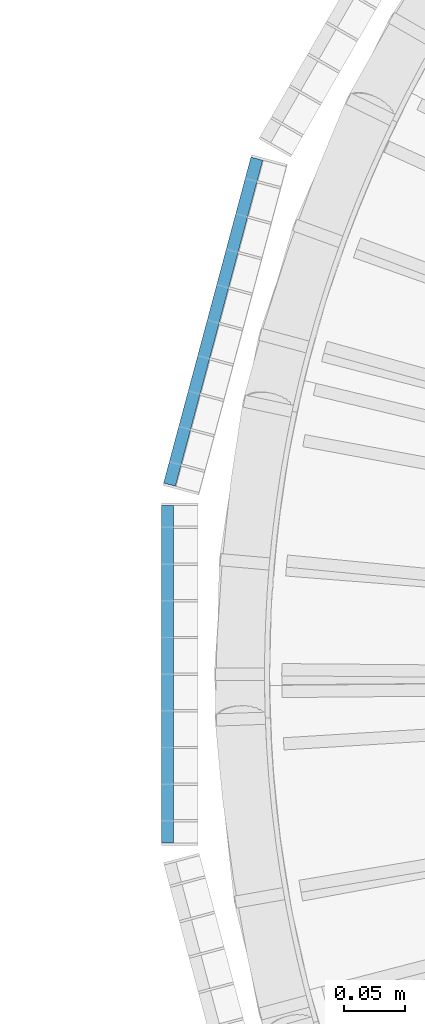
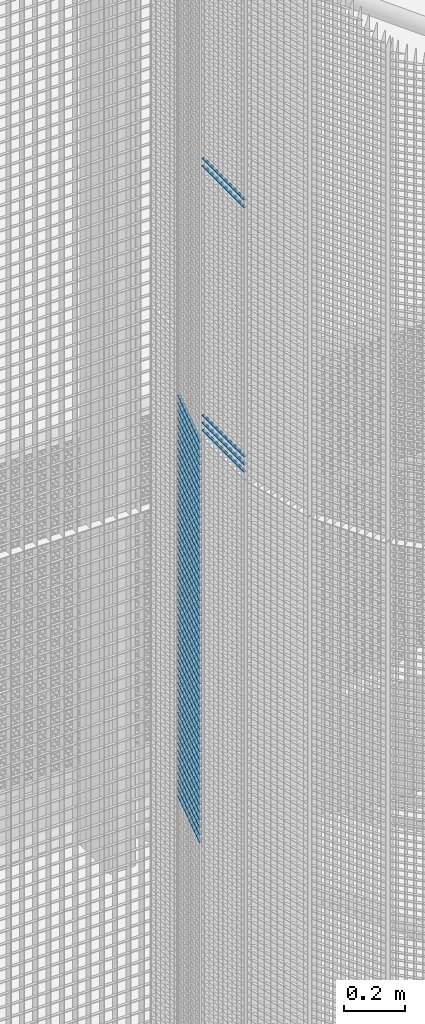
# One storey, part 196 of 1183: 59 beams, 2 elements without a shape of their own.
"""IFC2X3 building model written with IfcOpenShell, lengths in millimetres."""

import ifcopenshell
import ifcopenshell.guid

model = None  # the IFC model being written
_history = None  # IfcOwnerHistory: only IFC2X3 demands one
_inside = {}  # id of a spatial element -> (the spatial element, [elements in it])
_under = {}  # id of a project, library or spatial element -> (it, [spatial elements below it])
_declared = {}  # id of a project -> (the project, [libraries it declares])
_typed = {}  # id of a type object -> (the type object, [elements of that type])
_made_of = {}  # id of a material, layer set ... -> (it, [elements and type objects made of it])


def new_model(schema):
    """Start an empty IFC model of exactly this schema.

    Asked for "IFC4X3", IfcOpenShell would pick the latest addendum, in which some entities
    have other attributes; the version numbers below select the first issue.
    IFC2X3 requires an IfcOwnerHistory on every rooted entity: one is made here for all.
    """
    global model, _history
    if schema == "IFC4X3":
        model = ifcopenshell.file(schema_version=(4, 3, 0, 0))
    else:
        model = ifcopenshell.file(schema=schema)
    _inside.clear()
    _under.clear()
    _declared.clear()
    _typed.clear()
    _made_of.clear()
    _history = None
    if model.schema == "IFC2X3":
        org = make("IfcOrganization", Name="unknown")
        user = make(
            "IfcPersonAndOrganization",
            ThePerson=make("IfcPerson", FamilyName="unknown"),
            TheOrganization=org,
        )
        app = make(
            "IfcApplication",
            ApplicationDeveloper=org,
            Version="unknown",
            ApplicationFullName="unknown",
            ApplicationIdentifier="unknown",
        )
        _history = make(
            "IfcOwnerHistory",
            OwningUser=user,
            OwningApplication=app,
            ChangeAction="ADDED",
            CreationDate=0,
        )
    return model


def make(cls, **values):
    """One entity of the class cls with the attributes given. An attribute that is None is left unset."""
    return model.create_entity(
        cls, **{name: value for name, value in values.items() if value is not None}
    )


def rooted(cls, **values):
    """An entity with a GlobalId (a new one), such as an element, a storey or a relation."""
    return make(cls, GlobalId=ifcopenshell.guid.new(), OwnerHistory=_history, **values)


def si_unit(unit_type, name, prefix=None):
    """IfcSIUnit, for example si_unit("LENGTHUNIT", "METRE", prefix="MILLI")."""
    return make("IfcSIUnit", UnitType=unit_type, Prefix=prefix, Name=name)


def assignment(units):
    """IfcUnitAssignment: the units of a project."""
    return None if units is None else make("IfcUnitAssignment", Units=units)


def point(xyz):
    """IfcCartesianPoint."""
    return None if xyz is None else make("IfcCartesianPoint", Coordinates=xyz)


def direction(xyz):
    """IfcDirection."""
    return None if xyz is None else make("IfcDirection", DirectionRatios=xyz)


def frame(location, z_axis=None, x_axis=None):
    """IfcAxis2Placement3D, a coordinate frame: its origin and axes. An axis left out is left unset."""
    return make(
        "IfcAxis2Placement3D",
        Location=point(location),
        Axis=direction(z_axis),
        RefDirection=direction(x_axis),
    )


def frame_2d(location, x_axis=None):
    """IfcAxis2Placement2D, a coordinate frame in the plane: its origin and x axis."""
    return make(
        "IfcAxis2Placement2D", Location=point(location), RefDirection=direction(x_axis)
    )


def origin_with_axes():
    """The frame at (0, 0, 0) with the z axis (0, 0, 1) and the x axis (1, 0, 0) written out."""
    return frame((0.0, 0.0, 0.0), z_axis=(0.0, 0.0, 1.0), x_axis=(1.0, 0.0, 0.0))


def origin_2d_with_axis():
    """The frame at (0, 0) in the plane with the x axis (1, 0) written out."""
    return frame_2d((0.0, 0.0), x_axis=(1.0, 0.0))


def place(relative_to, where):
    """IfcLocalPlacement: puts the frame where relative to a parent placement (None: the world)."""
    return make(
        "IfcLocalPlacement", PlacementRelTo=relative_to, RelativePlacement=where
    )


def context(
    kind, dimensions, precision=None, world=None, true_north=None, identifier=None
):
    """IfcGeometricRepresentationContext, for example the 3D "Model" context."""
    return make(
        "IfcGeometricRepresentationContext",
        ContextIdentifier=identifier,
        ContextType=kind,
        CoordinateSpaceDimension=dimensions,
        Precision=precision,
        WorldCoordinateSystem=world,
        TrueNorth=true_north,
    )


def subcontext(parent, identifier, kind, view, scale=None):
    """IfcGeometricRepresentationSubContext, for example "Body" below "Model"."""
    return make(
        "IfcGeometricRepresentationSubContext",
        ContextIdentifier=identifier,
        ContextType=kind,
        ParentContext=parent,
        TargetScale=scale,
        TargetView=view,
    )


def project(units=None, contexts=None):
    """IfcProject with its units and contexts."""
    return rooted(
        "IfcProject",
        Name="project",
        RepresentationContexts=contexts,
        UnitsInContext=assignment(units),
    )


def spatial(cls, under=None, at=None, **own):
    """A site, building, storey or space (cls), placed at a placement, below another one or the project."""
    s = rooted(cls, ObjectPlacement=at, **own)
    if under is not None:
        _under.setdefault(under.id(), (under, []))[1].append(s)
    return s


def profile(cls, at=None, kind="AREA", **sizes):
    """A parametric profile (cls). Its sizes go by their IFC names, for example OverallWidth=200.0."""
    return make(cls, ProfileType=kind, Position=at, **sizes)


def rectangle(**sizes):
    """IfcRectangleProfileDef."""
    return profile("IfcRectangleProfileDef", **sizes)


def extrude(swept, where, along, depth):
    """IfcExtrudedAreaSolid: the profile swept, set in the frame where, extruded along a direction by depth."""
    return make(
        "IfcExtrudedAreaSolid",
        SweptArea=swept,
        Position=where,
        ExtrudedDirection=direction(along),
        Depth=depth,
    )


def shape(context_of_items, identifier, shape_type, items):
    """IfcShapeRepresentation: the items that make up one representation, for example the "Body"."""
    return make(
        "IfcShapeRepresentation",
        ContextOfItems=context_of_items,
        RepresentationIdentifier=identifier,
        RepresentationType=shape_type,
        Items=items,
    )


def material(Name=None, Category=None):
    """IfcMaterial."""
    return make("IfcMaterial", Name=Name, Category=Category)


def made_of(thing, what):
    """Note that an element or type object is made of a material, layer set ...; save() writes the relation."""
    if what is not None:
        _made_of.setdefault(what.id(), (what, []))[1].append(thing)
    return thing


def type_object(cls, material=None, **own):
    """A type object (cls), such as IfcWallType, which elements share."""
    return made_of(rooted(cls, **own), material)


def element(
    cls,
    number,
    at=None,
    inside=None,
    cuts=None,
    type_object=None,
    material=None,
    context=None,
    identifier="Body",
    shape_type=None,
    held_by="IfcProductDefinitionShape",
    body=None,
    shapes=None,
    **own,
):
    """One element of the class cls, such as IfcWall. Its Tag is "e" and its number.

    at: its placement. inside: the storey or other place that contains it. cuts: it is an
    opening in that element (IfcRelVoidsElement). A single representation is given by context,
    identifier, shape_type and body (its items); several are given by shapes. held_by: the class
    of the entity that holds the representations. save() writes the other relations.
    """
    e = rooted(cls, Tag="e%d" % number, ObjectPlacement=at, **own)
    if body is not None:
        shapes = [shape(context, identifier, shape_type, body)]
    if shapes is not None:
        e.Representation = make(held_by, Representations=shapes)
    if inside is not None:
        _inside.setdefault(inside.id(), (inside, []))[1].append(e)
    if cuts is not None:
        rooted(
            "IfcRelVoidsElement", RelatingBuildingElement=cuts, RelatedOpeningElement=e
        )
    if type_object is not None:
        _typed.setdefault(type_object.id(), (type_object, []))[1].append(e)
    return made_of(e, material)


def aggregate(whole, parts):
    """IfcRelAggregates: a whole, such as a stair, and the parts it consists of."""
    return rooted("IfcRelAggregates", RelatingObject=whole, RelatedObjects=parts)


def save(model, path):
    """Write the relations noted so far, then the file.

    IfcRelAggregates (storeys below a building ...), IfcRelContainedInSpatialStructure (elements
    in a storey), IfcRelDefinesByType, IfcRelAssociatesMaterial and IfcRelDeclares: one each for
    every whole, place, type object, material and project.
    """
    for whole, parts in _under.values():
        aggregate(whole, parts)
    for where, things in _inside.values():
        rooted(
            "IfcRelContainedInSpatialStructure",
            RelatedElements=things,
            RelatingStructure=where,
        )
    for kind, things in _typed.values():
        rooted("IfcRelDefinesByType", RelatedObjects=things, RelatingType=kind)
    for what, things in _made_of.values():
        rooted("IfcRelAssociatesMaterial", RelatedObjects=things, RelatingMaterial=what)
    for by, libraries in _declared.values():
        rooted("IfcRelDeclares", RelatingContext=by, RelatedDefinitions=libraries)
    model.write(path)


model = new_model("IFC2X3")

# Units and contexts
model_context = context("Model", 3, precision=1e-05, world=origin_with_axes())
body_context = subcontext(model_context, "Body", "Model", "MODEL_VIEW")
ifc_project = project(units=[si_unit("LENGTHUNIT", "METRE", prefix="MILLI"), si_unit("AREAUNIT", "SQUARE_METRE"), si_unit("VOLUMEUNIT", "CUBIC_METRE"), si_unit("MASSUNIT", "GRAM", prefix="KILO"), si_unit("TIMEUNIT", "SECOND"), si_unit("PLANEANGLEUNIT", "RADIAN"), si_unit("SOLIDANGLEUNIT", "STERADIAN"), si_unit("THERMODYNAMICTEMPERATUREUNIT", "DEGREE_CELSIUS"), si_unit("LUMINOUSINTENSITYUNIT", "LUMEN")], contexts=[model_context])

# Site, building, storey
site_placement = place(None, origin_with_axes())
site = spatial("IfcSite", under=ifc_project, at=site_placement, Name="Undefined", CompositionType="ELEMENT")
building_placement = place(site_placement, origin_with_axes())
building = spatial("IfcBuilding", under=site, at=building_placement, Name="Undefined", CompositionType="ELEMENT")
storey_placement = place(building_placement, origin_with_axes())
storey = spatial("IfcBuildingStorey", under=building, at=storey_placement, Name="Undefined", CompositionType="ELEMENT", Elevation=0.0)

# Assembly, beams
assembly_1_placement = place(storey_placement, origin_with_axes())
assembly_1 = element("IfcElementAssembly", 1, at=assembly_1_placement, inside=storey, Name="BORDURE", AssemblyPlace="NOTDEFINED", PredefinedType="NOTDEFINED")
ifc_material = material(Name="STEEL/S235JR")
beam_type = type_object("IfcBeamType", Name="PL2*10", PredefinedType="NOTDEFINED")
beam_1_placement = place(assembly_1_placement, frame((-1113.47999999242, 137.996003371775, 13080.0), z_axis=(-1.0, 0.0, 0.0), x_axis=(0.0, -1.0, 0.0)))
beam_1 = element("IfcBeam", 2, at=beam_1_placement, type_object=beam_type, material=ifc_material, Name="ENTRETOISE", context=body_context, shape_type="SweptSolid", body=[
    extrude(rectangle(XDim=2.0, YDim=10.0, at=origin_2d_with_axis()), frame((275.999999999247, 9.09494701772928e-13, 1.53210777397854e-14), z_axis=(-1.0, 0.0, 0.0), x_axis=(0.0, -1.0, 0.0)), (0.0, 0.0, 1.0), 276.0),
])
beam_2_placement = place(assembly_1_placement, frame((-1113.47999999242, 137.996003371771, 12090.0), z_axis=(-1.0, 0.0, 0.0), x_axis=(0.0, -1.0, 0.0)))
beam_2 = element("IfcBeam", 3, at=beam_2_placement, type_object=beam_type, material=ifc_material, Name="ENTRETOISE", context=body_context, shape_type="SweptSolid", body=[
    extrude(rectangle(XDim=2.0, YDim=10.0, at=origin_2d_with_axis()), frame((275.999999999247, 9.09494701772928e-13, 1.53210777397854e-14), z_axis=(-1.0, 0.0, 0.0), x_axis=(0.0, -1.0, 0.0)), (0.0, 0.0, 1.0), 276.0),
])
beam_3_placement = place(assembly_1_placement, frame((-1113.47999999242, 137.996003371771, 12060.0), z_axis=(-1.0, 0.0, 0.0), x_axis=(0.0, -1.0, 0.0)))
beam_3 = element("IfcBeam", 4, at=beam_3_placement, type_object=beam_type, material=ifc_material, Name="ENTRETOISE", context=body_context, shape_type="SweptSolid", body=[
    extrude(rectangle(XDim=2.0, YDim=10.0, at=origin_2d_with_axis()), frame((275.999999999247, 9.09494701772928e-13, 1.53210777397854e-14), z_axis=(-1.0, 0.0, 0.0), x_axis=(0.0, -1.0, 0.0)), (0.0, 0.0, 1.0), 276.0),
])
beam_4_placement = place(assembly_1_placement, frame((-1113.47999999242, 137.996003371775, 13110.0), z_axis=(-1.0, 0.0, 0.0), x_axis=(0.0, -1.0, 0.0)))
beam_4 = element("IfcBeam", 5, at=beam_4_placement, type_object=beam_type, material=ifc_material, Name="ENTRETOISE", context=body_context, shape_type="SweptSolid", body=[
    extrude(rectangle(XDim=2.0, YDim=10.0, at=origin_2d_with_axis()), frame((275.999999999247, 9.09494701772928e-13, 1.53210777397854e-14), z_axis=(-1.0, 0.0, 0.0), x_axis=(0.0, -1.0, 0.0)), (0.0, 0.0, 1.0), 276.0),
])
beam_5_placement = place(assembly_1_placement, frame((-1113.47999999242, 137.99600337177, 12030.0), z_axis=(-1.0, 0.0, 0.0), x_axis=(0.0, -1.0, 0.0)))
beam_5 = element("IfcBeam", 6, at=beam_5_placement, type_object=beam_type, material=ifc_material, Name="ENTRETOISE", context=body_context, shape_type="SweptSolid", body=[
    extrude(rectangle(XDim=2.0, YDim=10.0, at=origin_2d_with_axis()), frame((275.999999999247, 9.09494701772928e-13, 1.53210777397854e-14), z_axis=(-1.0, 0.0, 0.0), x_axis=(0.0, -1.0, 0.0)), (0.0, 0.0, 1.0), 276.0),
])
aggregate(assembly_1, [beam_1, beam_2, beam_3, beam_4, beam_5])

assembly_2_placement = place(storey_placement, origin_with_axes())
assembly_2 = element("IfcElementAssembly", 7, at=assembly_2_placement, inside=storey, Name="BORDURE", AssemblyPlace="NOTDEFINED", PredefinedType="NOTDEFINED")
beam_6_placement = place(assembly_2_placement, frame((-1040.30888419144, 421.61803829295, 11970.0), z_axis=(-0.965925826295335, 0.258819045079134, 0.0), x_axis=(-0.258819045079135, -0.965925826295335, 0.0)))
beam_6 = element("IfcBeam", 8, at=beam_6_placement, type_object=beam_type, material=ifc_material, Name="ENTRETOISE", context=body_context, shape_type="SweptSolid", body=[
    extrude(rectangle(XDim=2.0, YDim=10.0, at=origin_2d_with_axis()), frame((275.999999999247, 9.09494701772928e-13, 1.53210777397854e-14), z_axis=(-1.0, 0.0, 0.0), x_axis=(0.0, -1.0, 0.0)), (0.0, 0.0, 1.0), 276.0),
])
beam_7_placement = place(assembly_2_placement, frame((-1040.30888419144, 421.61803829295, 11940.0), z_axis=(-0.965925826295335, 0.258819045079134, 0.0), x_axis=(-0.258819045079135, -0.965925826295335, 0.0)))
beam_7 = element("IfcBeam", 9, at=beam_7_placement, type_object=beam_type, material=ifc_material, Name="ENTRETOISE", context=body_context, shape_type="SweptSolid", body=[
    extrude(rectangle(XDim=2.0, YDim=10.0, at=origin_2d_with_axis()), frame((275.999999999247, 9.09494701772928e-13, 1.53210777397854e-14), z_axis=(-1.0, 0.0, 0.0), x_axis=(0.0, -1.0, 0.0)), (0.0, 0.0, 1.0), 276.0),
])
beam_8_placement = place(assembly_2_placement, frame((-1040.30888419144, 421.61803829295, 11910.0), z_axis=(-0.965925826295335, 0.258819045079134, 0.0), x_axis=(-0.258819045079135, -0.965925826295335, 0.0)))
beam_8 = element("IfcBeam", 10, at=beam_8_placement, type_object=beam_type, material=ifc_material, Name="ENTRETOISE", context=body_context, shape_type="SweptSolid", body=[
    extrude(rectangle(XDim=2.0, YDim=10.0, at=origin_2d_with_axis()), frame((275.999999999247, 9.09494701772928e-13, 1.53210777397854e-14), z_axis=(-1.0, 0.0, 0.0), x_axis=(0.0, -1.0, 0.0)), (0.0, 0.0, 1.0), 276.0),
])
beam_9_placement = place(assembly_2_placement, frame((-1040.30888419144, 421.61803829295, 11880.0), z_axis=(-0.965925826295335, 0.258819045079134, 0.0), x_axis=(-0.258819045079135, -0.965925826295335, 0.0)))
beam_9 = element("IfcBeam", 11, at=beam_9_placement, type_object=beam_type, material=ifc_material, Name="ENTRETOISE", context=body_context, shape_type="SweptSolid", body=[
    extrude(rectangle(XDim=2.0, YDim=10.0, at=origin_2d_with_axis()), frame((275.999999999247, 9.09494701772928e-13, 1.53210777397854e-14), z_axis=(-1.0, 0.0, 0.0), x_axis=(0.0, -1.0, 0.0)), (0.0, 0.0, 1.0), 276.0),
])
beam_10_placement = place(assembly_2_placement, frame((-1040.30888419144, 421.61803829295, 11850.0), z_axis=(-0.965925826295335, 0.258819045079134, 0.0), x_axis=(-0.258819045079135, -0.965925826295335, 0.0)))
beam_10 = element("IfcBeam", 12, at=beam_10_placement, type_object=beam_type, material=ifc_material, Name="ENTRETOISE", context=body_context, shape_type="SweptSolid", body=[
    extrude(rectangle(XDim=2.0, YDim=10.0, at=origin_2d_with_axis()), frame((275.999999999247, 9.09494701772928e-13, 1.53210777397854e-14), z_axis=(-1.0, 0.0, 0.0), x_axis=(0.0, -1.0, 0.0)), (0.0, 0.0, 1.0), 276.0),
])
beam_11_placement = place(assembly_2_placement, frame((-1040.30888419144, 421.61803829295, 11820.0), z_axis=(-0.965925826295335, 0.258819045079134, 0.0), x_axis=(-0.258819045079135, -0.965925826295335, 0.0)))
beam_11 = element("IfcBeam", 13, at=beam_11_placement, type_object=beam_type, material=ifc_material, Name="ENTRETOISE", context=body_context, shape_type="SweptSolid", body=[
    extrude(rectangle(XDim=2.0, YDim=10.0, at=origin_2d_with_axis()), frame((275.999999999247, 9.09494701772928e-13, 1.53210777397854e-14), z_axis=(-1.0, 0.0, 0.0), x_axis=(0.0, -1.0, 0.0)), (0.0, 0.0, 1.0), 276.0),
])
beam_12_placement = place(assembly_2_placement, frame((-1040.30888419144, 421.61803829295, 11790.0), z_axis=(-0.965925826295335, 0.258819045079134, 0.0), x_axis=(-0.258819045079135, -0.965925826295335, 0.0)))
beam_12 = element("IfcBeam", 14, at=beam_12_placement, type_object=beam_type, material=ifc_material, Name="ENTRETOISE", context=body_context, shape_type="SweptSolid", body=[
    extrude(rectangle(XDim=2.0, YDim=10.0, at=origin_2d_with_axis()), frame((275.999999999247, 9.09494701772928e-13, 1.53210777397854e-14), z_axis=(-1.0, 0.0, 0.0), x_axis=(0.0, -1.0, 0.0)), (0.0, 0.0, 1.0), 276.0),
])
beam_13_placement = place(assembly_2_placement, frame((-1040.30888419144, 421.61803829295, 11760.0), z_axis=(-0.965925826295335, 0.258819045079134, 0.0), x_axis=(-0.258819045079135, -0.965925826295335, 0.0)))
beam_13 = element("IfcBeam", 15, at=beam_13_placement, type_object=beam_type, material=ifc_material, Name="ENTRETOISE", context=body_context, shape_type="SweptSolid", body=[
    extrude(rectangle(XDim=2.0, YDim=10.0, at=origin_2d_with_axis()), frame((275.999999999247, 9.09494701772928e-13, 1.53210777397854e-14), z_axis=(-1.0, 0.0, 0.0), x_axis=(0.0, -1.0, 0.0)), (0.0, 0.0, 1.0), 276.0),
])
beam_14_placement = place(assembly_2_placement, frame((-1040.30888419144, 421.61803829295, 11730.0), z_axis=(-0.965925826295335, 0.258819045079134, 0.0), x_axis=(-0.258819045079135, -0.965925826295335, 0.0)))
beam_14 = element("IfcBeam", 16, at=beam_14_placement, type_object=beam_type, material=ifc_material, Name="ENTRETOISE", context=body_context, shape_type="SweptSolid", body=[
    extrude(rectangle(XDim=2.0, YDim=10.0, at=origin_2d_with_axis()), frame((275.999999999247, 9.09494701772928e-13, 1.53210777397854e-14), z_axis=(-1.0, 0.0, 0.0), x_axis=(0.0, -1.0, 0.0)), (0.0, 0.0, 1.0), 276.0),
])
beam_15_placement = place(assembly_2_placement, frame((-1040.30888419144, 421.618038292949, 11700.0), z_axis=(-0.965925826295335, 0.258819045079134, 0.0), x_axis=(-0.258819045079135, -0.965925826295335, 0.0)))
beam_15 = element("IfcBeam", 17, at=beam_15_placement, type_object=beam_type, material=ifc_material, Name="ENTRETOISE", context=body_context, shape_type="SweptSolid", body=[
    extrude(rectangle(XDim=2.0, YDim=10.0, at=origin_2d_with_axis()), frame((275.999999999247, 9.09494701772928e-13, 1.53210777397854e-14), z_axis=(-1.0, 0.0, 0.0), x_axis=(0.0, -1.0, 0.0)), (0.0, 0.0, 1.0), 276.0),
])
beam_16_placement = place(assembly_2_placement, frame((-1040.30888419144, 421.618038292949, 11670.0), z_axis=(-0.965925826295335, 0.258819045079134, 0.0), x_axis=(-0.258819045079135, -0.965925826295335, 0.0)))
beam_16 = element("IfcBeam", 18, at=beam_16_placement, type_object=beam_type, material=ifc_material, Name="ENTRETOISE", context=body_context, shape_type="SweptSolid", body=[
    extrude(rectangle(XDim=2.0, YDim=10.0, at=origin_2d_with_axis()), frame((275.999999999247, 9.09494701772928e-13, 1.53210777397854e-14), z_axis=(-1.0, 0.0, 0.0), x_axis=(0.0, -1.0, 0.0)), (0.0, 0.0, 1.0), 276.0),
])
beam_17_placement = place(assembly_2_placement, frame((-1040.30888419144, 421.618038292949, 11640.0), z_axis=(-0.965925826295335, 0.258819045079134, 0.0), x_axis=(-0.258819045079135, -0.965925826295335, 0.0)))
beam_17 = element("IfcBeam", 19, at=beam_17_placement, type_object=beam_type, material=ifc_material, Name="ENTRETOISE", context=body_context, shape_type="SweptSolid", body=[
    extrude(rectangle(XDim=2.0, YDim=10.0, at=origin_2d_with_axis()), frame((275.999999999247, 9.09494701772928e-13, 1.53210777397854e-14), z_axis=(-1.0, 0.0, 0.0), x_axis=(0.0, -1.0, 0.0)), (0.0, 0.0, 1.0), 276.0),
])
beam_18_placement = place(assembly_2_placement, frame((-1040.30888419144, 421.618038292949, 11610.0), z_axis=(-0.965925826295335, 0.258819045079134, 0.0), x_axis=(-0.258819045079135, -0.965925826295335, 0.0)))
beam_18 = element("IfcBeam", 20, at=beam_18_placement, type_object=beam_type, material=ifc_material, Name="ENTRETOISE", context=body_context, shape_type="SweptSolid", body=[
    extrude(rectangle(XDim=2.0, YDim=10.0, at=origin_2d_with_axis()), frame((275.999999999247, 9.09494701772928e-13, 1.53210777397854e-14), z_axis=(-1.0, 0.0, 0.0), x_axis=(0.0, -1.0, 0.0)), (0.0, 0.0, 1.0), 276.0),
])
beam_19_placement = place(assembly_2_placement, frame((-1040.30888419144, 421.618038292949, 11580.0), z_axis=(-0.965925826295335, 0.258819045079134, 0.0), x_axis=(-0.258819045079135, -0.965925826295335, 0.0)))
beam_19 = element("IfcBeam", 21, at=beam_19_placement, type_object=beam_type, material=ifc_material, Name="ENTRETOISE", context=body_context, shape_type="SweptSolid", body=[
    extrude(rectangle(XDim=2.0, YDim=10.0, at=origin_2d_with_axis()), frame((275.999999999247, 9.09494701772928e-13, 1.53210777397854e-14), z_axis=(-1.0, 0.0, 0.0), x_axis=(0.0, -1.0, 0.0)), (0.0, 0.0, 1.0), 276.0),
])
beam_20_placement = place(assembly_2_placement, frame((-1040.30888419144, 421.618038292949, 11550.0), z_axis=(-0.965925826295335, 0.258819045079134, 0.0), x_axis=(-0.258819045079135, -0.965925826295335, 0.0)))
beam_20 = element("IfcBeam", 22, at=beam_20_placement, type_object=beam_type, material=ifc_material, Name="ENTRETOISE", context=body_context, shape_type="SweptSolid", body=[
    extrude(rectangle(XDim=2.0, YDim=10.0, at=origin_2d_with_axis()), frame((275.999999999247, 9.09494701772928e-13, 1.53210777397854e-14), z_axis=(-1.0, 0.0, 0.0), x_axis=(0.0, -1.0, 0.0)), (0.0, 0.0, 1.0), 276.0),
])
beam_21_placement = place(assembly_2_placement, frame((-1040.30888419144, 421.618038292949, 11520.0), z_axis=(-0.965925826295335, 0.258819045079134, 0.0), x_axis=(-0.258819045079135, -0.965925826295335, 0.0)))
beam_21 = element("IfcBeam", 23, at=beam_21_placement, type_object=beam_type, material=ifc_material, Name="ENTRETOISE", context=body_context, shape_type="SweptSolid", body=[
    extrude(rectangle(XDim=2.0, YDim=10.0, at=origin_2d_with_axis()), frame((275.999999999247, 9.09494701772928e-13, 1.53210777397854e-14), z_axis=(-1.0, 0.0, 0.0), x_axis=(0.0, -1.0, 0.0)), (0.0, 0.0, 1.0), 276.0),
])
beam_22_placement = place(assembly_2_placement, frame((-1040.30888419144, 421.618038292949, 11490.0), z_axis=(-0.965925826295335, 0.258819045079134, 0.0), x_axis=(-0.258819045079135, -0.965925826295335, 0.0)))
beam_22 = element("IfcBeam", 24, at=beam_22_placement, type_object=beam_type, material=ifc_material, Name="ENTRETOISE", context=body_context, shape_type="SweptSolid", body=[
    extrude(rectangle(XDim=2.0, YDim=10.0, at=origin_2d_with_axis()), frame((275.999999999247, 9.09494701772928e-13, 1.53210777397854e-14), z_axis=(-1.0, 0.0, 0.0), x_axis=(0.0, -1.0, 0.0)), (0.0, 0.0, 1.0), 276.0),
])
beam_23_placement = place(assembly_2_placement, frame((-1040.30888419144, 421.618038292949, 11460.0), z_axis=(-0.965925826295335, 0.258819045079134, 0.0), x_axis=(-0.258819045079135, -0.965925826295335, 0.0)))
beam_23 = element("IfcBeam", 25, at=beam_23_placement, type_object=beam_type, material=ifc_material, Name="ENTRETOISE", context=body_context, shape_type="SweptSolid", body=[
    extrude(rectangle(XDim=2.0, YDim=10.0, at=origin_2d_with_axis()), frame((275.999999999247, 9.09494701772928e-13, 1.53210777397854e-14), z_axis=(-1.0, 0.0, 0.0), x_axis=(0.0, -1.0, 0.0)), (0.0, 0.0, 1.0), 276.0),
])
beam_24_placement = place(assembly_2_placement, frame((-1040.30888419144, 421.618038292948, 11430.0), z_axis=(-0.965925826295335, 0.258819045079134, 0.0), x_axis=(-0.258819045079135, -0.965925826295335, 0.0)))
beam_24 = element("IfcBeam", 26, at=beam_24_placement, type_object=beam_type, material=ifc_material, Name="ENTRETOISE", context=body_context, shape_type="SweptSolid", body=[
    extrude(rectangle(XDim=2.0, YDim=10.0, at=origin_2d_with_axis()), frame((275.999999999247, 9.09494701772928e-13, 1.53210777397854e-14), z_axis=(-1.0, 0.0, 0.0), x_axis=(0.0, -1.0, 0.0)), (0.0, 0.0, 1.0), 276.0),
])
beam_25_placement = place(assembly_2_placement, frame((-1040.30888419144, 421.618038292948, 11400.0), z_axis=(-0.965925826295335, 0.258819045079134, 0.0), x_axis=(-0.258819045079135, -0.965925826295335, 0.0)))
beam_25 = element("IfcBeam", 27, at=beam_25_placement, type_object=beam_type, material=ifc_material, Name="ENTRETOISE", context=body_context, shape_type="SweptSolid", body=[
    extrude(rectangle(XDim=2.0, YDim=10.0, at=origin_2d_with_axis()), frame((275.999999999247, 9.09494701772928e-13, 1.53210777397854e-14), z_axis=(-1.0, 0.0, 0.0), x_axis=(0.0, -1.0, 0.0)), (0.0, 0.0, 1.0), 276.0),
])
beam_26_placement = place(assembly_2_placement, frame((-1040.30888419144, 421.618038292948, 11370.0), z_axis=(-0.965925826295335, 0.258819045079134, 0.0), x_axis=(-0.258819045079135, -0.965925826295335, 0.0)))
beam_26 = element("IfcBeam", 28, at=beam_26_placement, type_object=beam_type, material=ifc_material, Name="ENTRETOISE", context=body_context, shape_type="SweptSolid", body=[
    extrude(rectangle(XDim=2.0, YDim=10.0, at=origin_2d_with_axis()), frame((275.999999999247, 9.09494701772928e-13, 1.53210777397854e-14), z_axis=(-1.0, 0.0, 0.0), x_axis=(0.0, -1.0, 0.0)), (0.0, 0.0, 1.0), 276.0),
])
beam_27_placement = place(assembly_2_placement, frame((-1040.30888419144, 421.618038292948, 11340.0), z_axis=(-0.965925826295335, 0.258819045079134, 0.0), x_axis=(-0.258819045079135, -0.965925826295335, 0.0)))
beam_27 = element("IfcBeam", 29, at=beam_27_placement, type_object=beam_type, material=ifc_material, Name="ENTRETOISE", context=body_context, shape_type="SweptSolid", body=[
    extrude(rectangle(XDim=2.0, YDim=10.0, at=origin_2d_with_axis()), frame((275.999999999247, 9.09494701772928e-13, 1.53210777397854e-14), z_axis=(-1.0, 0.0, 0.0), x_axis=(0.0, -1.0, 0.0)), (0.0, 0.0, 1.0), 276.0),
])
beam_28_placement = place(assembly_2_placement, frame((-1040.30888419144, 421.618038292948, 11310.0), z_axis=(-0.965925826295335, 0.258819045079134, 0.0), x_axis=(-0.258819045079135, -0.965925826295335, 0.0)))
beam_28 = element("IfcBeam", 30, at=beam_28_placement, type_object=beam_type, material=ifc_material, Name="ENTRETOISE", context=body_context, shape_type="SweptSolid", body=[
    extrude(rectangle(XDim=2.0, YDim=10.0, at=origin_2d_with_axis()), frame((275.999999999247, 9.09494701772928e-13, 1.53210777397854e-14), z_axis=(-1.0, 0.0, 0.0), x_axis=(0.0, -1.0, 0.0)), (0.0, 0.0, 1.0), 276.0),
])
beam_29_placement = place(assembly_2_placement, frame((-1040.30888419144, 421.618038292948, 11280.0), z_axis=(-0.965925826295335, 0.258819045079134, 0.0), x_axis=(-0.258819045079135, -0.965925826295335, 0.0)))
beam_29 = element("IfcBeam", 31, at=beam_29_placement, type_object=beam_type, material=ifc_material, Name="ENTRETOISE", context=body_context, shape_type="SweptSolid", body=[
    extrude(rectangle(XDim=2.0, YDim=10.0, at=origin_2d_with_axis()), frame((275.999999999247, 9.09494701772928e-13, 1.53210777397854e-14), z_axis=(-1.0, 0.0, 0.0), x_axis=(0.0, -1.0, 0.0)), (0.0, 0.0, 1.0), 276.0),
])
beam_30_placement = place(assembly_2_placement, frame((-1040.30888419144, 421.618038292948, 11250.0), z_axis=(-0.965925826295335, 0.258819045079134, 0.0), x_axis=(-0.258819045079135, -0.965925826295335, 0.0)))
beam_30 = element("IfcBeam", 32, at=beam_30_placement, type_object=beam_type, material=ifc_material, Name="ENTRETOISE", context=body_context, shape_type="SweptSolid", body=[
    extrude(rectangle(XDim=2.0, YDim=10.0, at=origin_2d_with_axis()), frame((275.999999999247, 9.09494701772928e-13, 1.53210777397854e-14), z_axis=(-1.0, 0.0, 0.0), x_axis=(0.0, -1.0, 0.0)), (0.0, 0.0, 1.0), 276.0),
])
beam_31_placement = place(assembly_2_placement, frame((-1040.30888419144, 421.618038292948, 11220.0), z_axis=(-0.965925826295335, 0.258819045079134, 0.0), x_axis=(-0.258819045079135, -0.965925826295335, 0.0)))
beam_31 = element("IfcBeam", 33, at=beam_31_placement, type_object=beam_type, material=ifc_material, Name="ENTRETOISE", context=body_context, shape_type="SweptSolid", body=[
    extrude(rectangle(XDim=2.0, YDim=10.0, at=origin_2d_with_axis()), frame((275.999999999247, 9.09494701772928e-13, 1.53210777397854e-14), z_axis=(-1.0, 0.0, 0.0), x_axis=(0.0, -1.0, 0.0)), (0.0, 0.0, 1.0), 276.0),
])
beam_32_placement = place(assembly_2_placement, frame((-1040.30888419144, 421.618038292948, 11190.0), z_axis=(-0.965925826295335, 0.258819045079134, 0.0), x_axis=(-0.258819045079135, -0.965925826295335, 0.0)))
beam_32 = element("IfcBeam", 34, at=beam_32_placement, type_object=beam_type, material=ifc_material, Name="ENTRETOISE", context=body_context, shape_type="SweptSolid", body=[
    extrude(rectangle(XDim=2.0, YDim=10.0, at=origin_2d_with_axis()), frame((275.999999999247, 9.09494701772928e-13, 1.53210777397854e-14), z_axis=(-1.0, 0.0, 0.0), x_axis=(0.0, -1.0, 0.0)), (0.0, 0.0, 1.0), 276.0),
])
beam_33_placement = place(assembly_2_placement, frame((-1040.30888419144, 421.618038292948, 11160.0), z_axis=(-0.965925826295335, 0.258819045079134, 0.0), x_axis=(-0.258819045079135, -0.965925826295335, 0.0)))
beam_33 = element("IfcBeam", 35, at=beam_33_placement, type_object=beam_type, material=ifc_material, Name="ENTRETOISE", context=body_context, shape_type="SweptSolid", body=[
    extrude(rectangle(XDim=2.0, YDim=10.0, at=origin_2d_with_axis()), frame((275.999999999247, 9.09494701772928e-13, 1.53210777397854e-14), z_axis=(-1.0, 0.0, 0.0), x_axis=(0.0, -1.0, 0.0)), (0.0, 0.0, 1.0), 276.0),
])
beam_34_placement = place(assembly_2_placement, frame((-1040.30888419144, 421.618038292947, 11130.0), z_axis=(-0.965925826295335, 0.258819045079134, 0.0), x_axis=(-0.258819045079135, -0.965925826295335, 0.0)))
beam_34 = element("IfcBeam", 36, at=beam_34_placement, type_object=beam_type, material=ifc_material, Name="ENTRETOISE", context=body_context, shape_type="SweptSolid", body=[
    extrude(rectangle(XDim=2.0, YDim=10.0, at=origin_2d_with_axis()), frame((275.999999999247, 9.09494701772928e-13, 1.53210777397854e-14), z_axis=(-1.0, 0.0, 0.0), x_axis=(0.0, -1.0, 0.0)), (0.0, 0.0, 1.0), 276.0),
])
beam_35_placement = place(assembly_2_placement, frame((-1040.30888419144, 421.618038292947, 11100.0), z_axis=(-0.965925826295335, 0.258819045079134, 0.0), x_axis=(-0.258819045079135, -0.965925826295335, 0.0)))
beam_35 = element("IfcBeam", 37, at=beam_35_placement, type_object=beam_type, material=ifc_material, Name="ENTRETOISE", context=body_context, shape_type="SweptSolid", body=[
    extrude(rectangle(XDim=2.0, YDim=10.0, at=origin_2d_with_axis()), frame((275.999999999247, 9.09494701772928e-13, 1.53210777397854e-14), z_axis=(-1.0, 0.0, 0.0), x_axis=(0.0, -1.0, 0.0)), (0.0, 0.0, 1.0), 276.0),
])
beam_36_placement = place(assembly_2_placement, frame((-1040.30888419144, 421.618038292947, 11070.0), z_axis=(-0.965925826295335, 0.258819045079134, 0.0), x_axis=(-0.258819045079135, -0.965925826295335, 0.0)))
beam_36 = element("IfcBeam", 38, at=beam_36_placement, type_object=beam_type, material=ifc_material, Name="ENTRETOISE", context=body_context, shape_type="SweptSolid", body=[
    extrude(rectangle(XDim=2.0, YDim=10.0, at=origin_2d_with_axis()), frame((275.999999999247, 9.09494701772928e-13, 1.53210777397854e-14), z_axis=(-1.0, 0.0, 0.0), x_axis=(0.0, -1.0, 0.0)), (0.0, 0.0, 1.0), 276.0),
])
beam_37_placement = place(assembly_2_placement, frame((-1040.30888419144, 421.618038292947, 11040.0), z_axis=(-0.965925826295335, 0.258819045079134, 0.0), x_axis=(-0.258819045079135, -0.965925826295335, 0.0)))
beam_37 = element("IfcBeam", 39, at=beam_37_placement, type_object=beam_type, material=ifc_material, Name="ENTRETOISE", context=body_context, shape_type="SweptSolid", body=[
    extrude(rectangle(XDim=2.0, YDim=10.0, at=origin_2d_with_axis()), frame((275.999999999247, 9.09494701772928e-13, 1.53210777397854e-14), z_axis=(-1.0, 0.0, 0.0), x_axis=(0.0, -1.0, 0.0)), (0.0, 0.0, 1.0), 276.0),
])
beam_38_placement = place(assembly_2_placement, frame((-1040.30888419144, 421.618038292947, 11010.0), z_axis=(-0.965925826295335, 0.258819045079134, 0.0), x_axis=(-0.258819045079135, -0.965925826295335, 0.0)))
beam_38 = element("IfcBeam", 40, at=beam_38_placement, type_object=beam_type, material=ifc_material, Name="ENTRETOISE", context=body_context, shape_type="SweptSolid", body=[
    extrude(rectangle(XDim=2.0, YDim=10.0, at=origin_2d_with_axis()), frame((275.999999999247, 9.09494701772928e-13, 1.53210777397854e-14), z_axis=(-1.0, 0.0, 0.0), x_axis=(0.0, -1.0, 0.0)), (0.0, 0.0, 1.0), 276.0),
])
beam_39_placement = place(assembly_2_placement, frame((-1040.30888419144, 421.618038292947, 10980.0), z_axis=(-0.965925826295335, 0.258819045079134, 0.0), x_axis=(-0.258819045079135, -0.965925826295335, 0.0)))
beam_39 = element("IfcBeam", 41, at=beam_39_placement, type_object=beam_type, material=ifc_material, Name="ENTRETOISE", context=body_context, shape_type="SweptSolid", body=[
    extrude(rectangle(XDim=2.0, YDim=10.0, at=origin_2d_with_axis()), frame((275.999999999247, 9.09494701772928e-13, 1.53210777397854e-14), z_axis=(-1.0, 0.0, 0.0), x_axis=(0.0, -1.0, 0.0)), (0.0, 0.0, 1.0), 276.0),
])
beam_40_placement = place(assembly_2_placement, frame((-1040.30888419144, 421.618038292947, 10950.0), z_axis=(-0.965925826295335, 0.258819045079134, 0.0), x_axis=(-0.258819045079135, -0.965925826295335, 0.0)))
beam_40 = element("IfcBeam", 42, at=beam_40_placement, type_object=beam_type, material=ifc_material, Name="ENTRETOISE", context=body_context, shape_type="SweptSolid", body=[
    extrude(rectangle(XDim=2.0, YDim=10.0, at=origin_2d_with_axis()), frame((275.999999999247, 9.09494701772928e-13, 1.53210777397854e-14), z_axis=(-1.0, 0.0, 0.0), x_axis=(0.0, -1.0, 0.0)), (0.0, 0.0, 1.0), 276.0),
])
beam_41_placement = place(assembly_2_placement, frame((-1040.30888419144, 421.618038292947, 10920.0), z_axis=(-0.965925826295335, 0.258819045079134, 0.0), x_axis=(-0.258819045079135, -0.965925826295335, 0.0)))
beam_41 = element("IfcBeam", 43, at=beam_41_placement, type_object=beam_type, material=ifc_material, Name="ENTRETOISE", context=body_context, shape_type="SweptSolid", body=[
    extrude(rectangle(XDim=2.0, YDim=10.0, at=origin_2d_with_axis()), frame((275.999999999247, 9.09494701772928e-13, 1.53210777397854e-14), z_axis=(-1.0, 0.0, 0.0), x_axis=(0.0, -1.0, 0.0)), (0.0, 0.0, 1.0), 276.0),
])
beam_42_placement = place(assembly_2_placement, frame((-1040.30888419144, 421.618038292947, 10890.0), z_axis=(-0.965925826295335, 0.258819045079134, 0.0), x_axis=(-0.258819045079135, -0.965925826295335, 0.0)))
beam_42 = element("IfcBeam", 44, at=beam_42_placement, type_object=beam_type, material=ifc_material, Name="ENTRETOISE", context=body_context, shape_type="SweptSolid", body=[
    extrude(rectangle(XDim=2.0, YDim=10.0, at=origin_2d_with_axis()), frame((275.999999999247, 9.09494701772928e-13, 1.53210777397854e-14), z_axis=(-1.0, 0.0, 0.0), x_axis=(0.0, -1.0, 0.0)), (0.0, 0.0, 1.0), 276.0),
])
beam_43_placement = place(assembly_2_placement, frame((-1040.30888419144, 421.618038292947, 10860.0), z_axis=(-0.965925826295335, 0.258819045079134, 0.0), x_axis=(-0.258819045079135, -0.965925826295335, 0.0)))
beam_43 = element("IfcBeam", 45, at=beam_43_placement, type_object=beam_type, material=ifc_material, Name="ENTRETOISE", context=body_context, shape_type="SweptSolid", body=[
    extrude(rectangle(XDim=2.0, YDim=10.0, at=origin_2d_with_axis()), frame((275.999999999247, 9.09494701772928e-13, 1.53210777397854e-14), z_axis=(-1.0, 0.0, 0.0), x_axis=(0.0, -1.0, 0.0)), (0.0, 0.0, 1.0), 276.0),
])
beam_44_placement = place(assembly_2_placement, frame((-1040.30888419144, 421.618038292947, 10830.0), z_axis=(-0.965925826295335, 0.258819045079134, 0.0), x_axis=(-0.258819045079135, -0.965925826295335, 0.0)))
beam_44 = element("IfcBeam", 46, at=beam_44_placement, type_object=beam_type, material=ifc_material, Name="ENTRETOISE", context=body_context, shape_type="SweptSolid", body=[
    extrude(rectangle(XDim=2.0, YDim=10.0, at=origin_2d_with_axis()), frame((275.999999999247, 9.09494701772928e-13, 1.53210777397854e-14), z_axis=(-1.0, 0.0, 0.0), x_axis=(0.0, -1.0, 0.0)), (0.0, 0.0, 1.0), 276.0),
])
beam_45_placement = place(assembly_2_placement, frame((-1040.30888419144, 421.618038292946, 10800.0), z_axis=(-0.965925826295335, 0.258819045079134, 0.0), x_axis=(-0.258819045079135, -0.965925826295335, 0.0)))
beam_45 = element("IfcBeam", 47, at=beam_45_placement, type_object=beam_type, material=ifc_material, Name="ENTRETOISE", context=body_context, shape_type="SweptSolid", body=[
    extrude(rectangle(XDim=2.0, YDim=10.0, at=origin_2d_with_axis()), frame((275.999999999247, 9.09494701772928e-13, 1.53210777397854e-14), z_axis=(-1.0, 0.0, 0.0), x_axis=(0.0, -1.0, 0.0)), (0.0, 0.0, 1.0), 276.0),
])
beam_46_placement = place(assembly_2_placement, frame((-1040.30888419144, 421.618038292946, 10770.0), z_axis=(-0.965925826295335, 0.258819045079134, 0.0), x_axis=(-0.258819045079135, -0.965925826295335, 0.0)))
beam_46 = element("IfcBeam", 48, at=beam_46_placement, type_object=beam_type, material=ifc_material, Name="ENTRETOISE", context=body_context, shape_type="SweptSolid", body=[
    extrude(rectangle(XDim=2.0, YDim=10.0, at=origin_2d_with_axis()), frame((275.999999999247, 9.09494701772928e-13, 1.53210777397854e-14), z_axis=(-1.0, 0.0, 0.0), x_axis=(0.0, -1.0, 0.0)), (0.0, 0.0, 1.0), 276.0),
])
beam_47_placement = place(assembly_2_placement, frame((-1040.30888419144, 421.618038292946, 10740.0), z_axis=(-0.965925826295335, 0.258819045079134, 0.0), x_axis=(-0.258819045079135, -0.965925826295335, 0.0)))
beam_47 = element("IfcBeam", 49, at=beam_47_placement, type_object=beam_type, material=ifc_material, Name="ENTRETOISE", context=body_context, shape_type="SweptSolid", body=[
    extrude(rectangle(XDim=2.0, YDim=10.0, at=origin_2d_with_axis()), frame((275.999999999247, 9.09494701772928e-13, 1.53210777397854e-14), z_axis=(-1.0, 0.0, 0.0), x_axis=(0.0, -1.0, 0.0)), (0.0, 0.0, 1.0), 276.0),
])
beam_48_placement = place(assembly_2_placement, frame((-1040.30888419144, 421.618038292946, 10710.0), z_axis=(-0.965925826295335, 0.258819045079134, 0.0), x_axis=(-0.258819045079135, -0.965925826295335, 0.0)))
beam_48 = element("IfcBeam", 50, at=beam_48_placement, type_object=beam_type, material=ifc_material, Name="ENTRETOISE", context=body_context, shape_type="SweptSolid", body=[
    extrude(rectangle(XDim=2.0, YDim=10.0, at=origin_2d_with_axis()), frame((275.999999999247, 9.09494701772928e-13, 1.53210777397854e-14), z_axis=(-1.0, 0.0, 0.0), x_axis=(0.0, -1.0, 0.0)), (0.0, 0.0, 1.0), 276.0),
])
beam_49_placement = place(assembly_2_placement, frame((-1040.30888419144, 421.618038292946, 10680.0), z_axis=(-0.965925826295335, 0.258819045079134, 0.0), x_axis=(-0.258819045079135, -0.965925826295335, 0.0)))
beam_49 = element("IfcBeam", 51, at=beam_49_placement, type_object=beam_type, material=ifc_material, Name="ENTRETOISE", context=body_context, shape_type="SweptSolid", body=[
    extrude(rectangle(XDim=2.0, YDim=10.0, at=origin_2d_with_axis()), frame((275.999999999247, 9.09494701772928e-13, 1.53210777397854e-14), z_axis=(-1.0, 0.0, 0.0), x_axis=(0.0, -1.0, 0.0)), (0.0, 0.0, 1.0), 276.0),
])
beam_50_placement = place(assembly_2_placement, frame((-1040.30888419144, 421.618038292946, 10650.0), z_axis=(-0.965925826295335, 0.258819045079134, 0.0), x_axis=(-0.258819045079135, -0.965925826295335, 0.0)))
beam_50 = element("IfcBeam", 52, at=beam_50_placement, type_object=beam_type, material=ifc_material, Name="ENTRETOISE", context=body_context, shape_type="SweptSolid", body=[
    extrude(rectangle(XDim=2.0, YDim=10.0, at=origin_2d_with_axis()), frame((275.999999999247, 9.09494701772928e-13, 1.53210777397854e-14), z_axis=(-1.0, 0.0, 0.0), x_axis=(0.0, -1.0, 0.0)), (0.0, 0.0, 1.0), 276.0),
])
beam_51_placement = place(assembly_2_placement, frame((-1040.30888419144, 421.618038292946, 10620.0), z_axis=(-0.965925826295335, 0.258819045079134, 0.0), x_axis=(-0.258819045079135, -0.965925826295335, 0.0)))
beam_51 = element("IfcBeam", 53, at=beam_51_placement, type_object=beam_type, material=ifc_material, Name="ENTRETOISE", context=body_context, shape_type="SweptSolid", body=[
    extrude(rectangle(XDim=2.0, YDim=10.0, at=origin_2d_with_axis()), frame((275.999999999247, 9.09494701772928e-13, 1.53210777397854e-14), z_axis=(-1.0, 0.0, 0.0), x_axis=(0.0, -1.0, 0.0)), (0.0, 0.0, 1.0), 276.0),
])
beam_52_placement = place(assembly_2_placement, frame((-1040.30888419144, 421.618038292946, 10590.0), z_axis=(-0.965925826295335, 0.258819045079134, 0.0), x_axis=(-0.258819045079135, -0.965925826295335, 0.0)))
beam_52 = element("IfcBeam", 54, at=beam_52_placement, type_object=beam_type, material=ifc_material, Name="ENTRETOISE", context=body_context, shape_type="SweptSolid", body=[
    extrude(rectangle(XDim=2.0, YDim=10.0, at=origin_2d_with_axis()), frame((275.999999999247, 9.09494701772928e-13, 1.53210777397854e-14), z_axis=(-1.0, 0.0, 0.0), x_axis=(0.0, -1.0, 0.0)), (0.0, 0.0, 1.0), 276.0),
])
beam_53_placement = place(assembly_2_placement, frame((-1040.30888419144, 421.618038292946, 10560.0), z_axis=(-0.965925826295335, 0.258819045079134, 0.0), x_axis=(-0.258819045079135, -0.965925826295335, 0.0)))
beam_53 = element("IfcBeam", 55, at=beam_53_placement, type_object=beam_type, material=ifc_material, Name="ENTRETOISE", context=body_context, shape_type="SweptSolid", body=[
    extrude(rectangle(XDim=2.0, YDim=10.0, at=origin_2d_with_axis()), frame((275.999999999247, 9.09494701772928e-13, 1.53210777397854e-14), z_axis=(-1.0, 0.0, 0.0), x_axis=(0.0, -1.0, 0.0)), (0.0, 0.0, 1.0), 276.0),
])
beam_54_placement = place(assembly_2_placement, frame((-1040.30888419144, 421.618038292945, 10530.0), z_axis=(-0.965925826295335, 0.258819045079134, 0.0), x_axis=(-0.258819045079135, -0.965925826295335, 0.0)))
beam_54 = element("IfcBeam", 56, at=beam_54_placement, type_object=beam_type, material=ifc_material, Name="ENTRETOISE", context=body_context, shape_type="SweptSolid", body=[
    extrude(rectangle(XDim=2.0, YDim=10.0, at=origin_2d_with_axis()), frame((275.999999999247, 9.09494701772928e-13, 1.53210777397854e-14), z_axis=(-1.0, 0.0, 0.0), x_axis=(0.0, -1.0, 0.0)), (0.0, 0.0, 1.0), 276.0),
])
beam_55_placement = place(assembly_2_placement, frame((-1040.30888419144, 421.618038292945, 10500.0), z_axis=(-0.965925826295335, 0.258819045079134, 0.0), x_axis=(-0.258819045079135, -0.965925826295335, 0.0)))
beam_55 = element("IfcBeam", 57, at=beam_55_placement, type_object=beam_type, material=ifc_material, Name="ENTRETOISE", context=body_context, shape_type="SweptSolid", body=[
    extrude(rectangle(XDim=2.0, YDim=10.0, at=origin_2d_with_axis()), frame((275.999999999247, 9.09494701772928e-13, 1.53210777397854e-14), z_axis=(-1.0, 0.0, 0.0), x_axis=(0.0, -1.0, 0.0)), (0.0, 0.0, 1.0), 276.0),
])
beam_56_placement = place(assembly_2_placement, frame((-1040.30888419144, 421.618038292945, 10470.0), z_axis=(-0.965925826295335, 0.258819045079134, 0.0), x_axis=(-0.258819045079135, -0.965925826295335, 0.0)))
beam_56 = element("IfcBeam", 58, at=beam_56_placement, type_object=beam_type, material=ifc_material, Name="ENTRETOISE", context=body_context, shape_type="SweptSolid", body=[
    extrude(rectangle(XDim=2.0, YDim=10.0, at=origin_2d_with_axis()), frame((275.999999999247, 9.09494701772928e-13, 1.53210777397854e-14), z_axis=(-1.0, 0.0, 0.0), x_axis=(0.0, -1.0, 0.0)), (0.0, 0.0, 1.0), 276.0),
])
beam_57_placement = place(assembly_2_placement, frame((-1040.30888419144, 421.618038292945, 10440.0), z_axis=(-0.965925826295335, 0.258819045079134, 0.0), x_axis=(-0.258819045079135, -0.965925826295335, 0.0)))
beam_57 = element("IfcBeam", 59, at=beam_57_placement, type_object=beam_type, material=ifc_material, Name="ENTRETOISE", context=body_context, shape_type="SweptSolid", body=[
    extrude(rectangle(XDim=2.0, YDim=10.0, at=origin_2d_with_axis()), frame((275.999999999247, 9.09494701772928e-13, 1.53210777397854e-14), z_axis=(-1.0, 0.0, 0.0), x_axis=(0.0, -1.0, 0.0)), (0.0, 0.0, 1.0), 276.0),
])
beam_58_placement = place(assembly_2_placement, frame((-1040.30888419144, 421.618038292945, 10410.0), z_axis=(-0.965925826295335, 0.258819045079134, 0.0), x_axis=(-0.258819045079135, -0.965925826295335, 0.0)))
beam_58 = element("IfcBeam", 60, at=beam_58_placement, type_object=beam_type, material=ifc_material, Name="ENTRETOISE", context=body_context, shape_type="SweptSolid", body=[
    extrude(rectangle(XDim=2.0, YDim=10.0, at=origin_2d_with_axis()), frame((275.999999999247, 9.09494701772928e-13, 1.53210777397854e-14), z_axis=(-1.0, 0.0, 0.0), x_axis=(0.0, -1.0, 0.0)), (0.0, 0.0, 1.0), 276.0),
])
beam_59_placement = place(assembly_2_placement, frame((-1040.30888419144, 421.618038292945, 10380.0), z_axis=(-0.965925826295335, 0.258819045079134, 0.0), x_axis=(-0.258819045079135, -0.965925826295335, 0.0)))
beam_59 = element("IfcBeam", 61, at=beam_59_placement, type_object=beam_type, material=ifc_material, Name="ENTRETOISE", context=body_context, shape_type="SweptSolid", body=[
    extrude(rectangle(XDim=2.0, YDim=10.0, at=origin_2d_with_axis()), frame((275.999999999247, 9.09494701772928e-13, 1.53210777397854e-14), z_axis=(-1.0, 0.0, 0.0), x_axis=(0.0, -1.0, 0.0)), (0.0, 0.0, 1.0), 276.0),
])
aggregate(assembly_2, [beam_6, beam_7, beam_8, beam_9, beam_10, beam_11, beam_12, beam_13, beam_14, beam_15, beam_16, beam_17, beam_18, beam_19, beam_20, beam_21, beam_22, beam_23, beam_24, beam_25, beam_26, beam_27, beam_28, beam_29, beam_30, beam_31, beam_32, beam_33, beam_34, beam_35, beam_36, beam_37, beam_38, beam_39, beam_40, beam_41, beam_42, beam_43, beam_44, beam_45, beam_46, beam_47, beam_48, beam_49, beam_50, beam_51, beam_52, beam_53, beam_54, beam_55, beam_56, beam_57, beam_58, beam_59])

save(model, "model.ifc")
